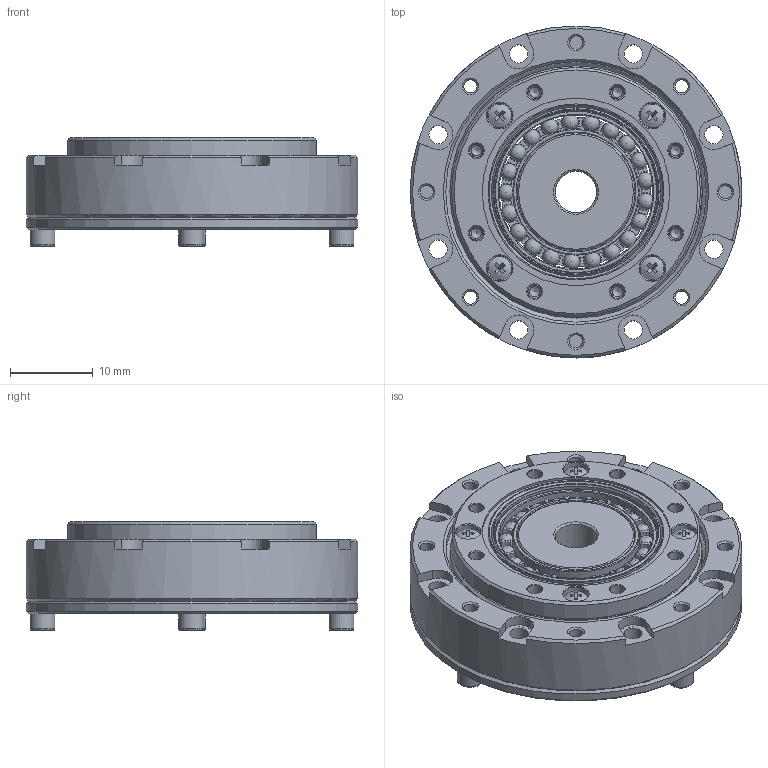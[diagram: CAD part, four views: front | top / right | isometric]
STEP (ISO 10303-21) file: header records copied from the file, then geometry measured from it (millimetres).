
FILE_DESCRIPTION(/* description */ (''),/* implementation_level */ '2;1');
FILE_NAME(/* name */ 'LHT-8-XX-U-I.stp',/* time_stamp */ '2024-06-18T10:33:31+08:00',/* author */ (''),/* organization */ (''),/* preprocessor_version */ 'ST-DEVELOPER v16.7',/* originating_system */ 'SIEMENS PLM Software NX 12.0',/* authorisation */ '');
FILE_SCHEMA (('AUTOMOTIVE_DESIGN { 1 0 10303 214 3 1 1 1 }'));
Length unit declared in the file: millimetre
Products named in the file (12): 保持架902; 滚珠; 外圆902; 内圈902; 交叉轴承LHT-8; 刚轮LHT-8; 柔轮LHT-8; 内六角圆柱头螺钉M2x6(3mm头径); 十字小圆头螺钉M1.6x5(2.5mm头径); 发生器LSS-8; 902KD; LHT-8-XX-U-I_stp
Assembly tree (37 placements, depth 3):
  LHT-8-XX-U-I_stp
    发生器LSS-8
    902KD
      内圈902
      外圆902
      滚珠  x21
      保持架902
    十字小圆头螺钉M1.6x5(2.5mm头径)  x4
    内六角圆柱头螺钉M2x6(3mm头径)  x4
    柔轮LHT-8
    刚轮LHT-8
    交叉轴承LHT-8
Bounding box: 40 x 40 x 13.1 mm (x, y, z)
Volume: 8061 mm3; surface area: 13446.8 mm2
Topology: 38 solids, 38 shells, 655 faces, 1536 edges, 924 vertices
Faces by surface type: plane 262, cone 169, cylinder 161, torus 33, sphere 25, bspline 4, revolution 1
Full cylindrical faces by diameter (mm): 1.25 x12, 1.496 x4, 1.6 x8, 1.7 x12, 1.886 x4, 2.05 x2, 2.2 x24, 2.8 x4, 3 x8, 5 x1, 12 x1, 13.8 x1, 14.23 x2, 15.25 x2, 15.8 x1, 17.8 x1, 18 x1, 18.55 x2, 19.63 x2, 20 x1, 20.348 x1, 20.43 x1, 21.2 x1, 22.6 x1, 23 x1, 24 x2, 27.97 x1, 30 x1, 30.4 x2, 30.5 x1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
Entity records: 13365 total; most frequent: CARTESIAN_POINT 2815, DIRECTION 2339, ORIENTED_EDGE 1624, AXIS2_PLACEMENT_3D 1070, EDGE_LOOP 835, EDGE_CURVE 812, FACE_BOUND 690, VERTEX_POINT 650
